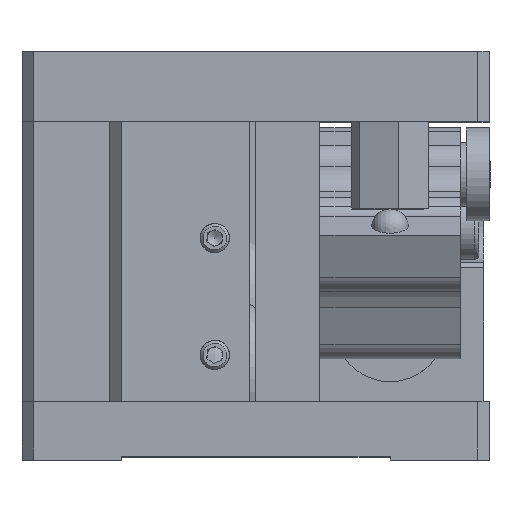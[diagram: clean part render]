
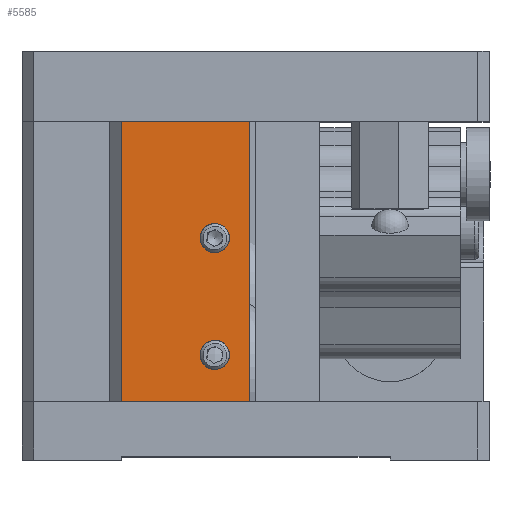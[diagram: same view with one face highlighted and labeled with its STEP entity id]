
A CAD part, top view. The second image highlights one B-rep face of the part: STEP entity #5585.
In plain terms, the highlighted planar face has unit normal (0, 0, 1).
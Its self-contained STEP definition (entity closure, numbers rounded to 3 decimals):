
#2205 = EDGE_CURVE ( 'NONE', #7481, #53053, #57901, .T. ) ;
#2258 = VECTOR ( 'NONE', #58207, 1000. ) ;
#2305 = EDGE_CURVE ( 'NONE', #22597, #56301, #30029, .T. ) ;
#2525 = CARTESIAN_POINT ( 'NONE',  ( 19.5, 5., 0. ) ) ;
#4499 = VECTOR ( 'NONE', #55279, 1000. ) ;
#4631 = ORIENTED_EDGE ( 'NONE', *, *, #31413, .F. ) ;
#5585 = ADVANCED_FACE ( 'NONE', ( #46290, #26386, #21483 ), #41383, .F. ) ;
#7144 = CARTESIAN_POINT ( 'NONE',  ( 19.5, 29., 0. ) ) ;
#7309 = EDGE_CURVE ( 'NONE', #8309, #8309, #62690, .T. ) ;
#7481 = VERTEX_POINT ( 'NONE', #45353 ) ;
#8309 = VERTEX_POINT ( 'NONE', #37663 ) ;
#8676 = CARTESIAN_POINT ( 'NONE',  ( 8.5, 29., 0. ) ) ;
#8697 = DIRECTION ( 'NONE',  ( 0., 0., 1. ) ) ;
#9156 = CARTESIAN_POINT ( 'NONE',  ( 8.5, 5., 0. ) ) ;
#9993 = LINE ( 'NONE', #25327, #4499 ) ;
#14825 = ORIENTED_EDGE ( 'NONE', *, *, #2305, .F. ) ;
#17855 = CIRCLE ( 'NONE', #26194, 1.25 ) ;
#18355 = CARTESIAN_POINT ( 'NONE',  ( 17.75, 19., 0. ) ) ;
#20983 = VECTOR ( 'NONE', #35899, 1000. ) ;
#21143 = ORIENTED_EDGE ( 'NONE', *, *, #7309, .F. ) ;
#21483 = FACE_OUTER_BOUND ( 'NONE', #41359, .T. ) ;
#22597 = VERTEX_POINT ( 'NONE', #51847 ) ;
#23032 = DIRECTION ( 'NONE',  ( 1., 0., 0. ) ) ;
#25327 = CARTESIAN_POINT ( 'NONE',  ( 19.5, 29., 0. ) ) ;
#26194 = AXIS2_PLACEMENT_3D ( 'NONE', #33462, #8697, #23032 ) ;
#26386 = FACE_BOUND ( 'NONE', #49417, .T. ) ;
#26924 = DIRECTION ( 'NONE',  ( 1., 0., 0. ) ) ;
#27000 = DIRECTION ( 'NONE',  ( -1., 0., 0. ) ) ;
#28923 = CARTESIAN_POINT ( 'NONE',  ( 19.5, 5., 0. ) ) ;
#29384 = EDGE_CURVE ( 'NONE', #63006, #63006, #17855, .T. ) ;
#29611 = VECTOR ( 'NONE', #26924, 1000. ) ;
#30029 = LINE ( 'NONE', #45365, #20983 ) ;
#31063 = ORIENTED_EDGE ( 'NONE', *, *, #29384, .F. ) ;
#31270 = EDGE_LOOP ( 'NONE', ( #21143 ) ) ;
#31413 = EDGE_CURVE ( 'NONE', #7481, #22597, #9993, .T. ) ;
#32143 = LINE ( 'NONE', #2525, #29611 ) ;
#33462 = CARTESIAN_POINT ( 'NONE',  ( 16.5, 19., 0. ) ) ;
#35546 = DIRECTION ( 'NONE',  ( 0., 0., 1. ) ) ;
#35899 = DIRECTION ( 'NONE',  ( 0., -1., 0. ) ) ;
#37663 = CARTESIAN_POINT ( 'NONE',  ( 17.75, 9., 0. ) ) ;
#41359 = EDGE_LOOP ( 'NONE', ( #4631, #55238, #48362, #14825 ) ) ;
#41383 = PLANE ( 'NONE',  #49231 ) ;
#45353 = CARTESIAN_POINT ( 'NONE',  ( 8.5, 29., 0. ) ) ;
#45365 = CARTESIAN_POINT ( 'NONE',  ( 19.5, 29., 0. ) ) ;
#45869 = EDGE_CURVE ( 'NONE', #53053, #56301, #32143, .T. ) ;
#46290 = FACE_BOUND ( 'NONE', #31270, .T. ) ;
#48362 = ORIENTED_EDGE ( 'NONE', *, *, #45869, .T. ) ;
#49231 = AXIS2_PLACEMENT_3D ( 'NONE', #7144, #61242, #27000 ) ;
#49417 = EDGE_LOOP ( 'NONE', ( #31063 ) ) ;
#51847 = CARTESIAN_POINT ( 'NONE',  ( 19.5, 29., 0. ) ) ;
#53053 = VERTEX_POINT ( 'NONE', #9156 ) ;
#55238 = ORIENTED_EDGE ( 'NONE', *, *, #2205, .T. ) ;
#55279 = DIRECTION ( 'NONE',  ( 1., 0., 0. ) ) ;
#55423 = DIRECTION ( 'NONE',  ( 1., 0., 0. ) ) ;
#56301 = VERTEX_POINT ( 'NONE', #28923 ) ;
#57901 = LINE ( 'NONE', #8676, #2258 ) ;
#58207 = DIRECTION ( 'NONE',  ( 0., -1., 0. ) ) ;
#58550 = AXIS2_PLACEMENT_3D ( 'NONE', #60017, #35546, #55423 ) ;
#60017 = CARTESIAN_POINT ( 'NONE',  ( 16.5, 9., 0. ) ) ;
#61242 = DIRECTION ( 'NONE',  ( 0., 0., -1. ) ) ;
#62690 = CIRCLE ( 'NONE', #58550, 1.25 ) ;
#63006 = VERTEX_POINT ( 'NONE', #18355 ) ;
